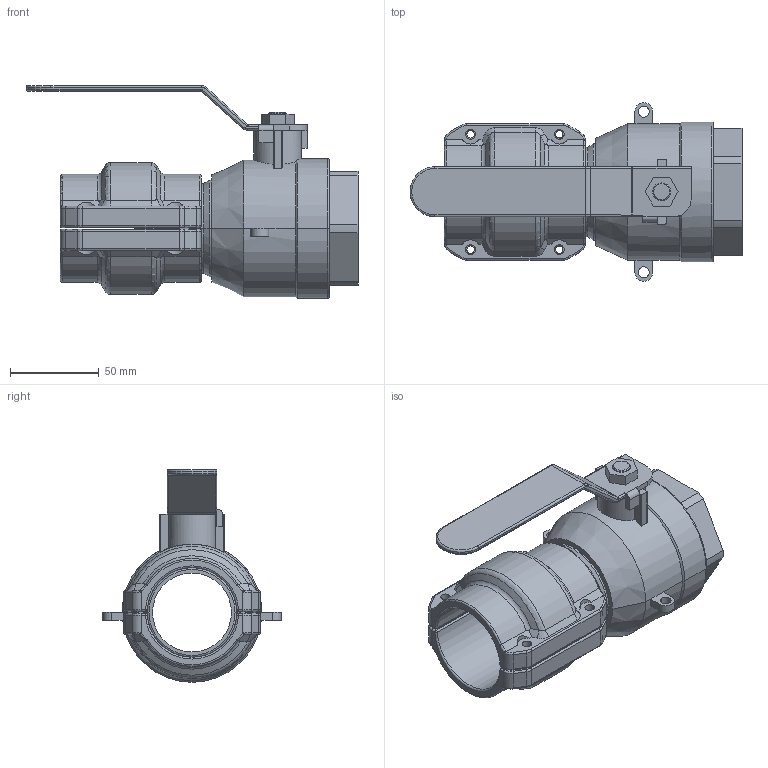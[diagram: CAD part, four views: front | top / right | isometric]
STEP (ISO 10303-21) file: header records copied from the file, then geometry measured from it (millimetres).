
FILE_DESCRIPTION((''),'2;1');
FILE_NAME('AU15555199_ASM','2017-05-13T',('li'),(''),'PRO/ENGINEER BY PARAMETRIC TECHNOLOGY CORPORATION, 2009360','PRO/ENGINEER BY PARAMETRIC TECHNOLOGY CORPORATION, 2009360','');
FILE_SCHEMA(('AUTOMOTIVE_DESIGN { 1 0 10303 214 1 1 1 1 }'));
Length unit declared in the file: millimetre
Products named in the file (5): AU15555100; 201550020001; 201550020000; 2015500200_ASM; AU15555199_ASM
Assembly tree (4 placements, depth 3):
  AU15555199_ASM
    AU15555100
    2015500200_ASM
      201550020001
      201550020000
Bounding box: 187.11 x 100.6 x 119.86 mm (x, y, z)
Volume: 256424.5 mm3; surface area: 106790.4 mm2
Topology: 3 solids, 3 shells, 367 faces, 928 edges, 573 vertices
Faces by surface type: cylinder 151, plane 101, torus 62, bspline 24, cone 21, sphere 8
Entity records: 15216 total; most frequent: CARTESIAN_POINT 3194, DIRECTION 1921, ORIENTED_EDGE 1856, PRESENTATION_STYLE_ASSIGNMENT 931, STYLED_ITEM 931, CURVE_STYLE 928, EDGE_CURVE 928, AXIS2_PLACEMENT_3D 758
